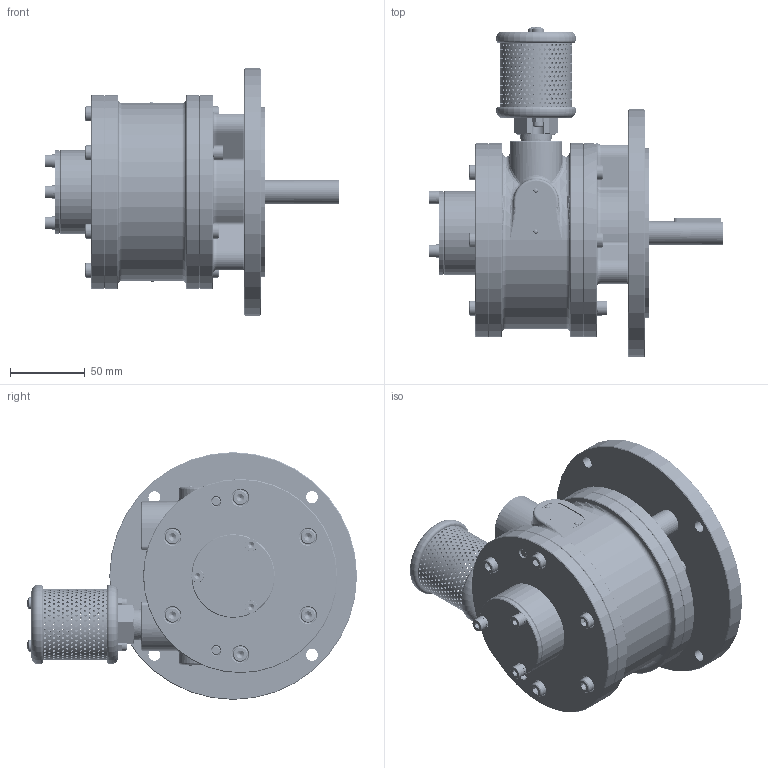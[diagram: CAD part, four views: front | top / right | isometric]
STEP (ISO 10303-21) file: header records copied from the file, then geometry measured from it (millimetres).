
FILE_DESCRIPTION (( 'STEP AP214' ), '1' );
FILE_NAME ('6VMN-SGI (22-04-26).STEP', '2026-04-23T04:48:27', ( '' ), ( '' ), 'SwSTEP 2.0', 'SolidWorks 2017', '' );
FILE_SCHEMA (( 'AUTOMOTIVE_DESIGN' ));
Length unit declared in the file: millimetre
Products named in the file (2): 6VMN-SGI (22-04-26)
Bounding box: 197.45 x 221.2 x 166 mm (x, y, z)
Volume: 826301.3 mm3; surface area: 271813.4 mm2
Topology: 61 solids, 61 shells, 4204 faces, 10790 edges, 6636 vertices
Faces by surface type: cylinder 2323, cone 952, plane 718, torus 155, bspline 32, sphere 24
Entity records: 216910 total; most frequent: CARTESIAN_POINT 71539, ORIENTED_EDGE 21304, DIRECTION 18403, EDGE_CURVE 10652, AXIS2_PLACEMENT_3D 7065, VERTEX_POINT 6632, EDGE_LOOP 5860, VECTOR 4273
